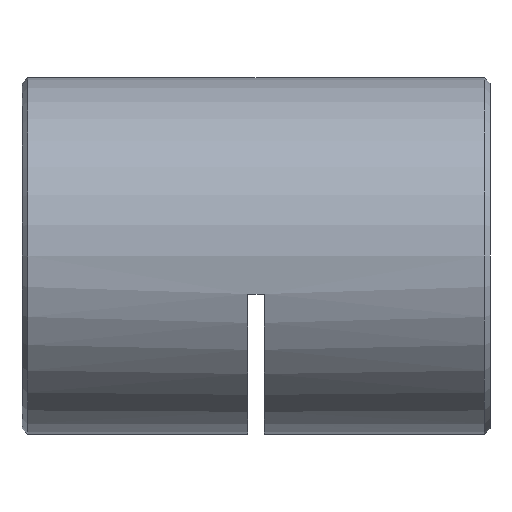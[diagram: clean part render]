
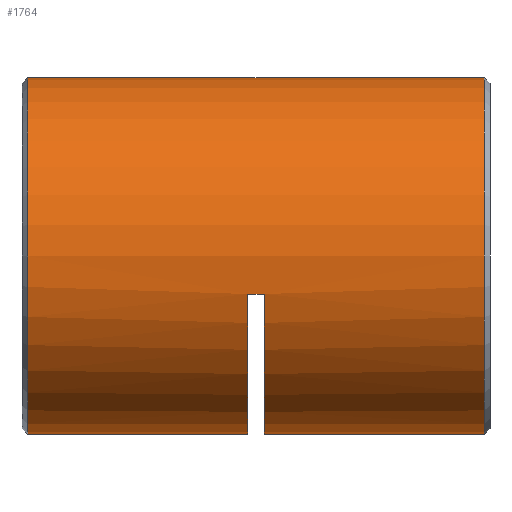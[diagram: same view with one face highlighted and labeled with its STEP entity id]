
A CAD part, left-side view. The second image highlights one B-rep face of the part: STEP entity #1764.
In plain terms, the highlighted cylindrical face has radius 16 mm (diameter 32 mm), a partial arc.
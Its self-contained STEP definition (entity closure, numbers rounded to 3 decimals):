
#3 = DIRECTION ( 'NONE',  ( 0., -1., 0. ) ) ;
#316 = DIRECTION ( 'NONE',  ( 0., 0., -1. ) ) ;
#329 = VERTEX_POINT ( 'NONE', #1521 ) ;
#398 = CARTESIAN_POINT ( 'NONE',  ( 0., 22., 0. ) ) ;
#437 = EDGE_CURVE ( 'NONE', #1311, #883, #5071, .T. ) ;
#487 = CARTESIAN_POINT ( 'NONE',  ( 0., 0.75, 0. ) ) ;
#580 = VERTEX_POINT ( 'NONE', #1021 ) ;
#710 = ORIENTED_EDGE ( 'NONE', *, *, #437, .F. ) ;
#717 = EDGE_CURVE ( 'NONE', #329, #580, #4363, .T. ) ;
#765 = FACE_OUTER_BOUND ( 'NONE', #4166, .T. ) ;
#840 = VECTOR ( 'NONE', #2398, 1000. ) ;
#883 = VERTEX_POINT ( 'NONE', #6014 ) ;
#990 = ORIENTED_EDGE ( 'NONE', *, *, #4155, .T. ) ;
#1021 = CARTESIAN_POINT ( 'NONE',  ( -15.632, 20.5, -3.413 ) ) ;
#1074 = VERTEX_POINT ( 'NONE', #5215 ) ;
#1114 = AXIS2_PLACEMENT_3D ( 'NONE', #1717, #5656, #1689 ) ;
#1311 = VERTEX_POINT ( 'NONE', #3623 ) ;
#1366 = CIRCLE ( 'NONE', #5356, 16. ) ;
#1405 = CARTESIAN_POINT ( 'NONE',  ( -15.632, 21.25, -3.413 ) ) ;
#1521 = CARTESIAN_POINT ( 'NONE',  ( -15.632, 22., -3.413 ) ) ;
#1570 = DIRECTION ( 'NONE',  ( 0., -1., 0. ) ) ;
#1689 = DIRECTION ( 'NONE',  ( 0., 0., -1. ) ) ;
#1717 = CARTESIAN_POINT ( 'NONE',  ( 0., 20.5, 0. ) ) ;
#1764 = ADVANCED_FACE ( 'NONE', ( #765 ), #2305, .T. ) ;
#1875 = DIRECTION ( 'NONE',  ( 0., -1., 0. ) ) ;
#1899 = VERTEX_POINT ( 'NONE', #4485 ) ;
#1905 = DIRECTION ( 'NONE',  ( 0., 0., -1. ) ) ;
#1907 = CARTESIAN_POINT ( 'NONE',  ( 0., 22., -16. ) ) ;
#1945 = EDGE_CURVE ( 'NONE', #1899, #2774, #3832, .T. ) ;
#2113 = ORIENTED_EDGE ( 'NONE', *, *, #717, .T. ) ;
#2241 = VECTOR ( 'NONE', #3, 1000. ) ;
#2252 = ORIENTED_EDGE ( 'NONE', *, *, #5194, .F. ) ;
#2291 = VECTOR ( 'NONE', #5405, 1000. ) ;
#2305 = CYLINDRICAL_SURFACE ( 'NONE', #4015, 16. ) ;
#2398 = DIRECTION ( 'NONE',  ( 0., -1., 0. ) ) ;
#2774 = VERTEX_POINT ( 'NONE', #6002 ) ;
#2890 = CARTESIAN_POINT ( 'NONE',  ( 0., 42.5, -16. ) ) ;
#2902 = CARTESIAN_POINT ( 'NONE',  ( 0., 42.5, 0. ) ) ;
#3149 = EDGE_CURVE ( 'NONE', #2774, #883, #1366, .T. ) ;
#3402 = DIRECTION ( 'NONE',  ( 0., -1., 0. ) ) ;
#3488 = CARTESIAN_POINT ( 'NONE',  ( 0., 42.5, 16. ) ) ;
#3559 = EDGE_CURVE ( 'NONE', #1311, #1074, #4824, .T. ) ;
#3595 = VECTOR ( 'NONE', #1570, 1000. ) ;
#3619 = LINE ( 'NONE', #2890, #2241 ) ;
#3623 = CARTESIAN_POINT ( 'NONE',  ( 0., 41.75, 16. ) ) ;
#3625 = DIRECTION ( 'NONE',  ( 0., -1., 0. ) ) ;
#3730 = CIRCLE ( 'NONE', #1114, 16. ) ;
#3832 = LINE ( 'NONE', #3999, #840 ) ;
#3992 = DIRECTION ( 'NONE',  ( 0., 0., 1. ) ) ;
#3999 = CARTESIAN_POINT ( 'NONE',  ( 0., 42.5, -16. ) ) ;
#4015 = AXIS2_PLACEMENT_3D ( 'NONE', #2902, #3402, #1905 ) ;
#4155 = EDGE_CURVE ( 'NONE', #580, #1899, #3730, .T. ) ;
#4166 = EDGE_LOOP ( 'NONE', ( #710, #4204, #5331, #2252, #2113, #990, #6021, #5923 ) ) ;
#4204 = ORIENTED_EDGE ( 'NONE', *, *, #3559, .T. ) ;
#4363 = LINE ( 'NONE', #1405, #2291 ) ;
#4485 = CARTESIAN_POINT ( 'NONE',  ( 0., 20.5, -16. ) ) ;
#4664 = AXIS2_PLACEMENT_3D ( 'NONE', #6053, #3625, #6112 ) ;
#4824 = CIRCLE ( 'NONE', #4664, 16. ) ;
#5071 = LINE ( 'NONE', #3488, #3595 ) ;
#5159 = AXIS2_PLACEMENT_3D ( 'NONE', #398, #1875, #316 ) ;
#5194 = EDGE_CURVE ( 'NONE', #329, #5702, #5488, .T. ) ;
#5215 = CARTESIAN_POINT ( 'NONE',  ( 0., 41.75, -16. ) ) ;
#5331 = ORIENTED_EDGE ( 'NONE', *, *, #5669, .T. ) ;
#5356 = AXIS2_PLACEMENT_3D ( 'NONE', #487, #5887, #3992 ) ;
#5405 = DIRECTION ( 'NONE',  ( 0., -1., 0. ) ) ;
#5488 = CIRCLE ( 'NONE', #5159, 16. ) ;
#5656 = DIRECTION ( 'NONE',  ( 0., -1., 0. ) ) ;
#5669 = EDGE_CURVE ( 'NONE', #1074, #5702, #3619, .T. ) ;
#5702 = VERTEX_POINT ( 'NONE', #1907 ) ;
#5887 = DIRECTION ( 'NONE',  ( 0., 1., 0. ) ) ;
#5923 = ORIENTED_EDGE ( 'NONE', *, *, #3149, .T. ) ;
#6002 = CARTESIAN_POINT ( 'NONE',  ( 0., 0.75, -16. ) ) ;
#6014 = CARTESIAN_POINT ( 'NONE',  ( 0., 0.75, 16. ) ) ;
#6021 = ORIENTED_EDGE ( 'NONE', *, *, #1945, .T. ) ;
#6053 = CARTESIAN_POINT ( 'NONE',  ( 0., 41.75, 0. ) ) ;
#6112 = DIRECTION ( 'NONE',  ( 0., 0., -1. ) ) ;
